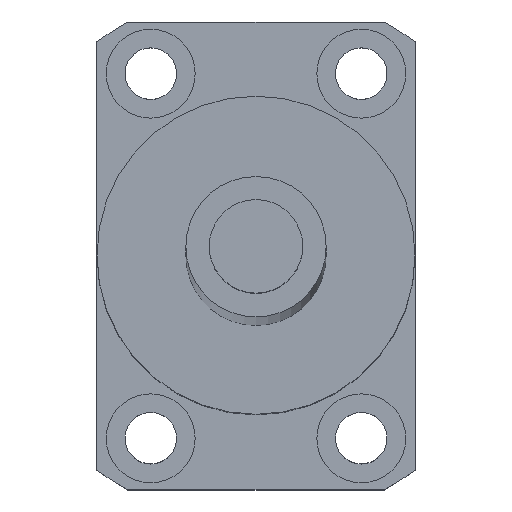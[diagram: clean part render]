
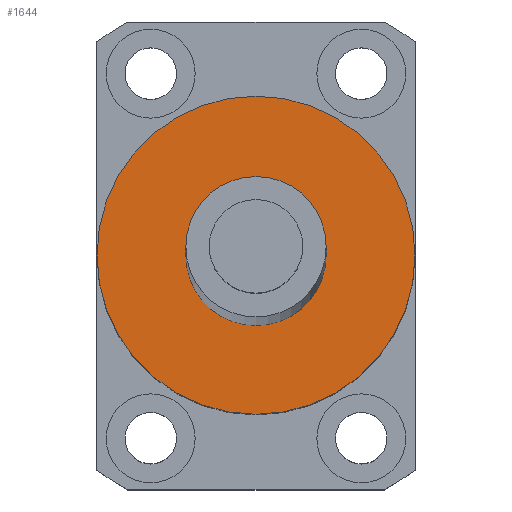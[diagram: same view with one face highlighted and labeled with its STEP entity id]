
A CAD part, top view. The second image highlights one B-rep face of the part: STEP entity #1644.
In plain terms, the highlighted planar face has unit normal (0, 0, 1).
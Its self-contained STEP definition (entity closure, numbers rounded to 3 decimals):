
#512=CARTESIAN_POINT('',(0.,0.,632.5));
#513=DIRECTION('',(0.,0.,1.));
#514=DIRECTION('',(1.,0.,0.));
#515=AXIS2_PLACEMENT_3D('',#512,#513,#514);
#517=CARTESIAN_POINT('',(0.,0.,632.5));
#518=DIRECTION('',(0.,0.,1.));
#519=DIRECTION('',(-1.,0.,0.));
#520=AXIS2_PLACEMENT_3D('',#517,#518,#519);
#522=CARTESIAN_POINT('',(0.,0.,632.5));
#523=DIRECTION('',(0.,0.,1.));
#524=DIRECTION('',(1.,0.,0.));
#525=AXIS2_PLACEMENT_3D('',#522,#523,#524);
#527=CARTESIAN_POINT('',(0.,0.,632.5));
#528=DIRECTION('',(0.,0.,1.));
#529=DIRECTION('',(-1.,0.,0.));
#530=AXIS2_PLACEMENT_3D('',#527,#528,#529);
#757=CARTESIAN_POINT('',(17.,0.,632.5));
#758=CARTESIAN_POINT('',(-17.,0.,632.5));
#759=VERTEX_POINT('',#757);
#760=VERTEX_POINT('',#758);
#769=CARTESIAN_POINT('',(7.5,0.,632.5));
#770=CARTESIAN_POINT('',(-7.5,0.,632.5));
#771=VERTEX_POINT('',#769);
#772=VERTEX_POINT('',#770);
#1629=CARTESIAN_POINT('',(0.,0.,632.5));
#1630=DIRECTION('',(0.,0.,1.));
#1631=DIRECTION('',(1.,0.,0.));
#1632=AXIS2_PLACEMENT_3D('',#1629,#1630,#1631);
#1633=PLANE('',#1632);
#1634=ORIENTED_EDGE('',*,*,#1609,.F.);
#1635=ORIENTED_EDGE('',*,*,#1623,.F.);
#1636=EDGE_LOOP('',(#1634,#1635));
#1637=FACE_OUTER_BOUND('',#1636,.F.);
#1639=ORIENTED_EDGE('',*,*,#1638,.T.);
#1641=ORIENTED_EDGE('',*,*,#1640,.T.);
#1642=EDGE_LOOP('',(#1639,#1641));
#1643=FACE_BOUND('',#1642,.F.);
#1644=ADVANCED_FACE('',(#1637,#1643),#1633,.T.);
#516=CIRCLE('',#515,17.);
#521=CIRCLE('',#520,17.);
#526=CIRCLE('',#525,7.5);
#531=CIRCLE('',#530,7.5);
#1609=EDGE_CURVE('',#759,#760,#516,.T.);
#1623=EDGE_CURVE('',#760,#759,#521,.T.);
#1638=EDGE_CURVE('',#771,#772,#526,.T.);
#1640=EDGE_CURVE('',#772,#771,#531,.T.);
